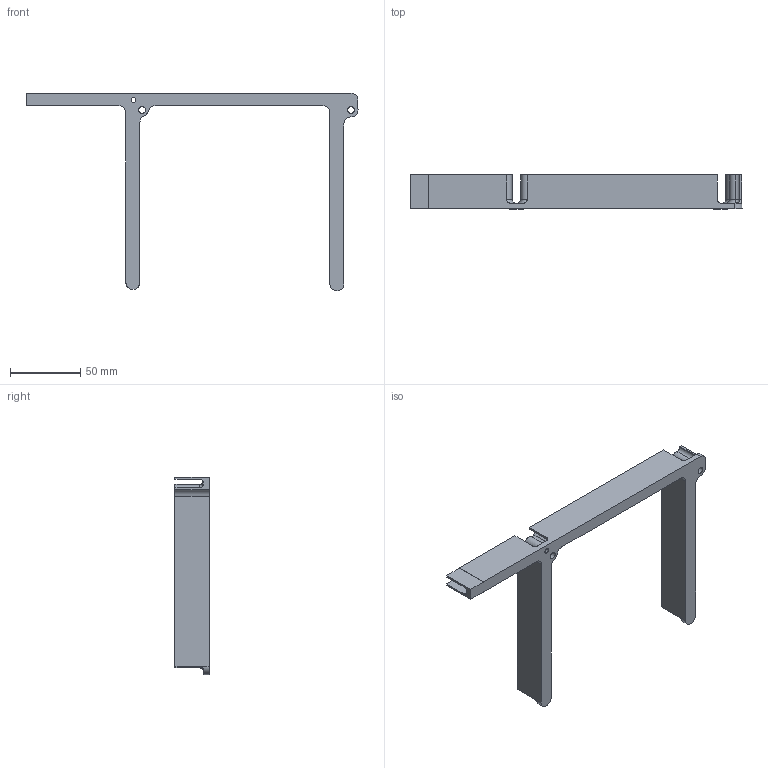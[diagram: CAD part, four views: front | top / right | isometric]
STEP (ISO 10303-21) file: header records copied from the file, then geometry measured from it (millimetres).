
FILE_DESCRIPTION (( 'STEP AP203' ), '1' );
FILE_NAME ('Part_B.STEP', '2026-07-29T21:15:40', ( '' ), ( '' ), 'SwSTEP 2.0', 'SolidWorks 2024', '' );
FILE_SCHEMA (( 'CONFIG_CONTROL_DESIGN' ));
Length unit declared in the file: inch
Products named in the file (1): Part_B
Bounding box: 236.72 x 24.29 x 140.98 mm (x, y, z)
Volume: 50464 mm3; surface area: 51114.1 mm2
Topology: 1 solids, 1 shells, 96 faces, 252 edges, 156 vertices
Faces by surface type: cylinder 46, plane 37, torus 7, sphere 6
Entity records: 3069 total; most frequent: CARTESIAN_POINT 602, DIRECTION 518, ORIENTED_EDGE 496, EDGE_CURVE 248, AXIS2_PLACEMENT_3D 186, VERTEX_POINT 154, LINE 146, VECTOR 146
